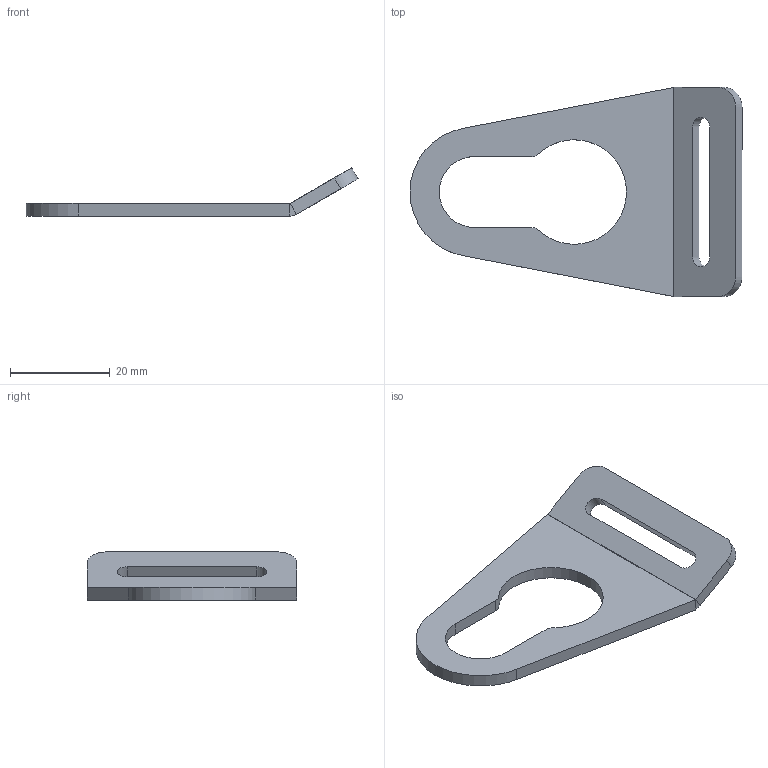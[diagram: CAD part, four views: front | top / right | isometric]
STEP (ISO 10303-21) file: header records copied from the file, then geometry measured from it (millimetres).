
FILE_DESCRIPTION (( 'STEP AP203' ), '1' );
FILE_NAME ('Cargo Latch - OEM Button.STEP', '2026-08-28T17:07:24', ( '' ), ( '' ), 'SwSTEP 2.0', 'SolidWorks 2025', '' );
FILE_SCHEMA (( 'CONFIG_CONTROL_DESIGN' ));
Length unit declared in the file: inch
Products named in the file (1): Cargo Latch - OEM Button
Bounding box: 66.7 x 42 x 9.7 mm (x, y, z)
Volume: 3984.8 mm3; surface area: 4033.4 mm2
Topology: 1 solids, 1 shells, 26 faces, 64 edges, 40 vertices
Faces by surface type: plane 15, cylinder 11
Entity records: 853 total; most frequent: DIRECTION 140, CARTESIAN_POINT 131, ORIENTED_EDGE 128, EDGE_CURVE 64, AXIS2_PLACEMENT_3D 49, VECTOR 42, LINE 42, VERTEX_POINT 40
